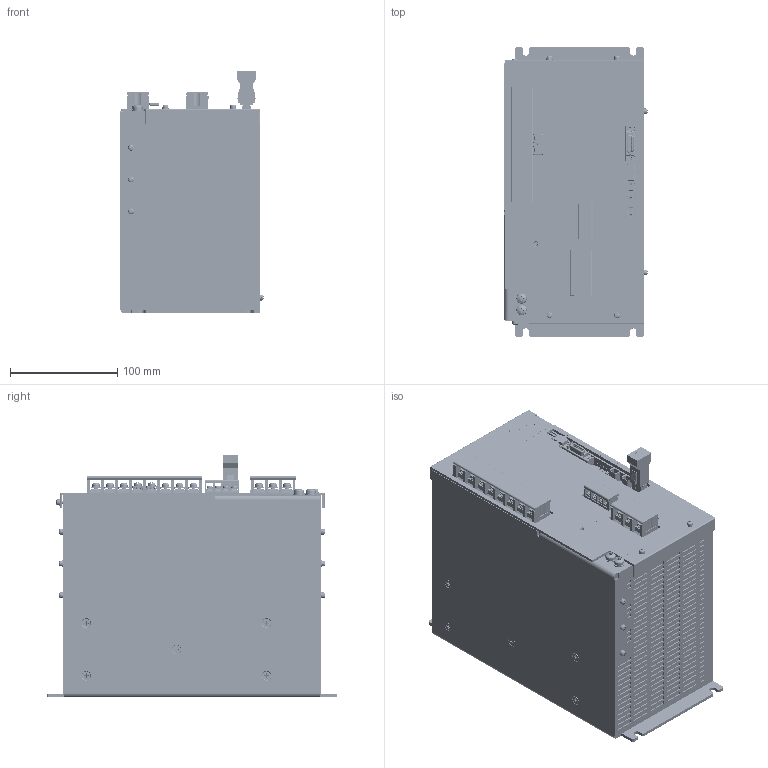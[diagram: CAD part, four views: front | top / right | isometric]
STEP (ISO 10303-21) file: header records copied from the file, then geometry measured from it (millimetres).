
FILE_DESCRIPTION (( 'STEP AP214' ), '1' );
FILE_NAME ('NCR-HE2_332#SE-82490A.STEP', '2020-02-10T08:31:44', ( '' ), ( '' ), 'SwSTEP 2.0', 'SolidWorks 2018', '' );
FILE_SCHEMA (( 'AUTOMOTIVE_DESIGN' ));
Length unit declared in the file: millimetre
Products named in the file (1): NCR-HE2_332#SE-82490A
Bounding box: 133.45 x 270 x 225.75 mm (x, y, z)
Volume: 5969786.1 mm3; surface area: 294758.7 mm2
Topology: 5 solids, 51 shells, 12011 faces, 33232 edges, 21821 vertices
Faces by surface type: plane 9627, cylinder 1438, bspline 591, cone 223, torus 102, sphere 30
Entity records: 542105 total; most frequent: CARTESIAN_POINT 104720, ORIENTED_EDGE 66424, DIRECTION 57779, EDGE_CURVE 33212, VECTOR 27389, LINE 27389, VERTEX_POINT 21821, AXIS2_PLACEMENT_3D 15195
